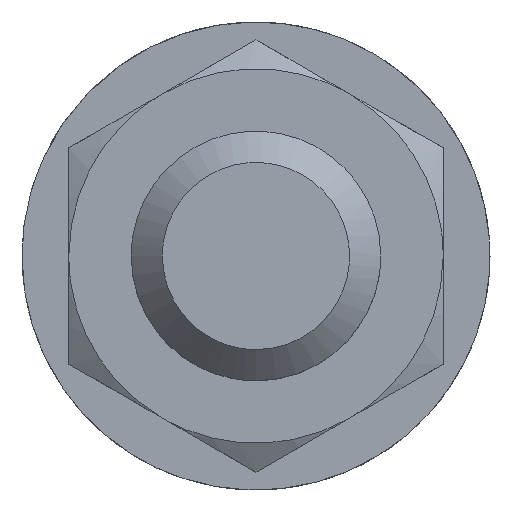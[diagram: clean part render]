
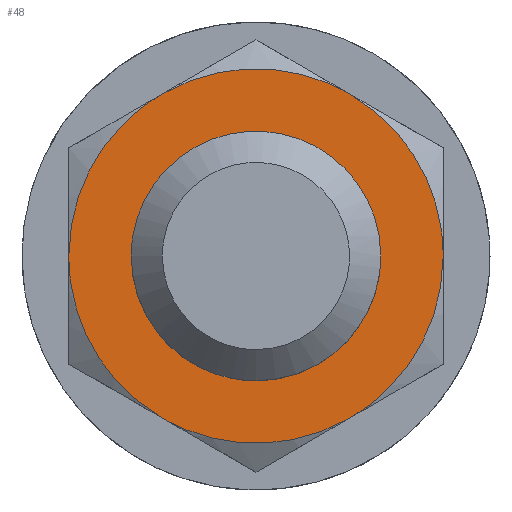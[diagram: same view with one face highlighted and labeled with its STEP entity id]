
A CAD part, left-side view. The second image highlights one B-rep face of the part: STEP entity #48.
In plain terms, the highlighted planar face has unit normal (-1, 0, 0).
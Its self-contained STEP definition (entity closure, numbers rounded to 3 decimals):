
#39=FACE_BOUND('',#135,.T.);
#48=ADVANCED_FACE('',(#90,#39),#650,.T.);
#90=FACE_OUTER_BOUND('',#134,.T.);
#134=EDGE_LOOP('',(#198,#199,#200,#201,#202,#203));
#135=EDGE_LOOP('',(#204,#205));
#198=ORIENTED_EDGE('',*,*,#397,.F.);
#199=ORIENTED_EDGE('',*,*,#399,.F.);
#200=ORIENTED_EDGE('',*,*,#400,.F.);
#201=ORIENTED_EDGE('',*,*,#398,.F.);
#202=ORIENTED_EDGE('',*,*,#396,.F.);
#203=ORIENTED_EDGE('',*,*,#395,.F.);
#204=ORIENTED_EDGE('',*,*,#385,.F.);
#205=ORIENTED_EDGE('',*,*,#383,.F.);
#383=EDGE_CURVE('',#596,#586,#507,.T.);
#385=EDGE_CURVE('',#586,#596,#508,.T.);
#395=EDGE_CURVE('',#590,#591,#516,.T.);
#396=EDGE_CURVE('',#591,#595,#517,.T.);
#397=EDGE_CURVE('',#592,#590,#518,.T.);
#398=EDGE_CURVE('',#595,#594,#519,.T.);
#399=EDGE_CURVE('',#593,#592,#520,.T.);
#400=EDGE_CURVE('',#594,#593,#521,.T.);
#507=(
BOUNDED_CURVE()
B_SPLINE_CURVE(2,(#1153,#1154,#1155,#1156,#1157),.UNSPECIFIED.,.F.,.F.)
B_SPLINE_CURVE_WITH_KNOTS((3,2,3),(25.133,37.699,50.266),
 .UNSPECIFIED.)
CURVE()
GEOMETRIC_REPRESENTATION_ITEM()
RATIONAL_B_SPLINE_CURVE((1.,0.707,1.,0.707,1.))
REPRESENTATION_ITEM('')
);
#508=(
BOUNDED_CURVE()
B_SPLINE_CURVE(2,(#1160,#1161,#1162,#1163,#1164),.UNSPECIFIED.,.F.,.F.)
B_SPLINE_CURVE_WITH_KNOTS((3,2,3),(0.,12.566,25.133),
 .UNSPECIFIED.)
CURVE()
GEOMETRIC_REPRESENTATION_ITEM()
RATIONAL_B_SPLINE_CURVE((1.,0.707,1.,0.707,1.))
REPRESENTATION_ITEM('')
);
#516=(
BOUNDED_CURVE()
B_SPLINE_CURVE(2,(#1202,#1203,#1204),.UNSPECIFIED.,.F.,.F.)
B_SPLINE_CURVE_WITH_KNOTS((3,3),(0.,12.566),.UNSPECIFIED.)
CURVE()
GEOMETRIC_REPRESENTATION_ITEM()
RATIONAL_B_SPLINE_CURVE((1.,0.866,1.))
REPRESENTATION_ITEM('')
);
#517=(
BOUNDED_CURVE()
B_SPLINE_CURVE(2,(#1205,#1206,#1207),.UNSPECIFIED.,.F.,.F.)
B_SPLINE_CURVE_WITH_KNOTS((3,3),(0.,12.566),.UNSPECIFIED.)
CURVE()
GEOMETRIC_REPRESENTATION_ITEM()
RATIONAL_B_SPLINE_CURVE((1.,0.866,1.))
REPRESENTATION_ITEM('')
);
#518=(
BOUNDED_CURVE()
B_SPLINE_CURVE(2,(#1208,#1209,#1210),.UNSPECIFIED.,.F.,.F.)
B_SPLINE_CURVE_WITH_KNOTS((3,3),(0.,12.566),.UNSPECIFIED.)
CURVE()
GEOMETRIC_REPRESENTATION_ITEM()
RATIONAL_B_SPLINE_CURVE((1.,0.866,1.))
REPRESENTATION_ITEM('')
);
#519=(
BOUNDED_CURVE()
B_SPLINE_CURVE(2,(#1211,#1212,#1213),.UNSPECIFIED.,.F.,.F.)
B_SPLINE_CURVE_WITH_KNOTS((3,3),(0.,12.566),.UNSPECIFIED.)
CURVE()
GEOMETRIC_REPRESENTATION_ITEM()
RATIONAL_B_SPLINE_CURVE((1.,0.866,1.))
REPRESENTATION_ITEM('')
);
#520=(
BOUNDED_CURVE()
B_SPLINE_CURVE(2,(#1214,#1215,#1216),.UNSPECIFIED.,.F.,.F.)
B_SPLINE_CURVE_WITH_KNOTS((3,3),(0.,12.566),.UNSPECIFIED.)
CURVE()
GEOMETRIC_REPRESENTATION_ITEM()
RATIONAL_B_SPLINE_CURVE((1.,0.866,1.))
REPRESENTATION_ITEM('')
);
#521=(
BOUNDED_CURVE()
B_SPLINE_CURVE(2,(#1217,#1218,#1219),.UNSPECIFIED.,.F.,.F.)
B_SPLINE_CURVE_WITH_KNOTS((3,3),(0.,12.566),.UNSPECIFIED.)
CURVE()
GEOMETRIC_REPRESENTATION_ITEM()
RATIONAL_B_SPLINE_CURVE((1.,0.866,1.))
REPRESENTATION_ITEM('')
);
#586=VERTEX_POINT('',#1121);
#590=VERTEX_POINT('',#1125);
#591=VERTEX_POINT('',#1126);
#592=VERTEX_POINT('',#1127);
#593=VERTEX_POINT('',#1128);
#594=VERTEX_POINT('',#1129);
#595=VERTEX_POINT('',#1130);
#596=VERTEX_POINT('',#1131);
#650=PLANE('',#764);
#764=AXIS2_PLACEMENT_3D('',#878,#790,$);
#790=DIRECTION('',(-1.,0.,0.));
#878=CARTESIAN_POINT('',(25.667,-14.52,-16.748));
#1121=CARTESIAN_POINT('',(25.667,8.,0.));
#1125=CARTESIAN_POINT('',(25.667,-6.,-10.392));
#1126=CARTESIAN_POINT('',(25.667,6.,-10.392));
#1127=CARTESIAN_POINT('',(25.667,-12.,0.));
#1128=CARTESIAN_POINT('',(25.667,-6.,10.392));
#1129=CARTESIAN_POINT('',(25.667,6.,10.392));
#1130=CARTESIAN_POINT('',(25.667,12.,0.));
#1131=CARTESIAN_POINT('',(25.667,-8.,0.));
#1153=CARTESIAN_POINT('',(25.667,-8.,0.));
#1154=CARTESIAN_POINT('',(25.667,-8.,8.));
#1155=CARTESIAN_POINT('',(25.667,0.,8.));
#1156=CARTESIAN_POINT('',(25.667,8.,8.));
#1157=CARTESIAN_POINT('',(25.667,8.,0.));
#1160=CARTESIAN_POINT('',(25.667,8.,0.));
#1161=CARTESIAN_POINT('',(25.667,8.,-8.));
#1162=CARTESIAN_POINT('',(25.667,0.,-8.));
#1163=CARTESIAN_POINT('',(25.667,-8.,-8.));
#1164=CARTESIAN_POINT('',(25.667,-8.,0.));
#1202=CARTESIAN_POINT('',(25.667,-6.,-10.392));
#1203=CARTESIAN_POINT('',(25.667,0.,-13.856));
#1204=CARTESIAN_POINT('',(25.667,6.,-10.392));
#1205=CARTESIAN_POINT('',(25.667,6.,-10.392));
#1206=CARTESIAN_POINT('',(25.667,12.,-6.928));
#1207=CARTESIAN_POINT('',(25.667,12.,0.));
#1208=CARTESIAN_POINT('',(25.667,-12.,0.));
#1209=CARTESIAN_POINT('',(25.667,-12.,-6.928));
#1210=CARTESIAN_POINT('',(25.667,-6.,-10.392));
#1211=CARTESIAN_POINT('',(25.667,12.,0.));
#1212=CARTESIAN_POINT('',(25.667,12.,6.928));
#1213=CARTESIAN_POINT('',(25.667,6.,10.392));
#1214=CARTESIAN_POINT('',(25.667,-6.,10.392));
#1215=CARTESIAN_POINT('',(25.667,-12.,6.928));
#1216=CARTESIAN_POINT('',(25.667,-12.,0.));
#1217=CARTESIAN_POINT('',(25.667,6.,10.392));
#1218=CARTESIAN_POINT('',(25.667,0.,13.856));
#1219=CARTESIAN_POINT('',(25.667,-6.,10.392));
